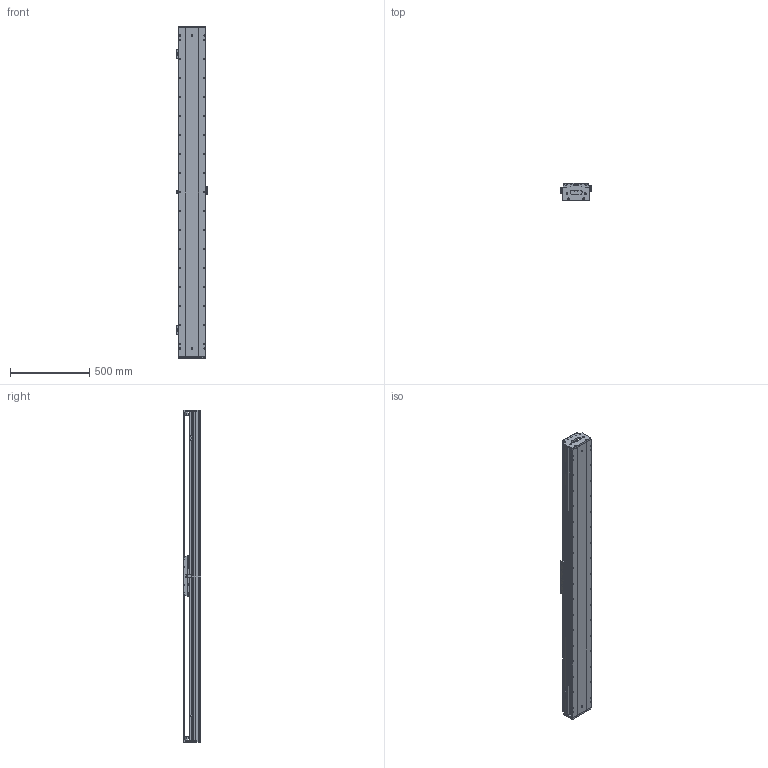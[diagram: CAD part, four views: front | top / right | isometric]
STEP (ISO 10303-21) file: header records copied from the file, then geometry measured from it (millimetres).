
FILE_DESCRIPTION (( 'STEP AP203' ), '1' );
FILE_NAME ('DKW168-C3-W090（T1740-L005-0.2）.STEP', '2021-09-10T01:37:29', ( '微软用户' ), ( '微软中国' ), 'SwSTEP 2.0', 'SolidWorks 2018', '' );
FILE_SCHEMA (( 'CONFIG_CONTROL_DESIGN' ));
Length unit declared in the file: millimetre
Products named in the file (27): DKW168-HXJ-00 遣喳砎蝶; RUS嫖掑郪璃; DKW168-C3-W090-HTB-04 C3-W090賑怢啣; 10392-0001-002-00 詩湍裔啣; pm-y65; MSB20S1FC; 砎蝶猾沭; 10980-0001-003-00 嫖萇羲壽嘐隅釱; CKM03-W090-C1C2-TP-0.2 珨极萇儂; DKW168 单轴模组-拉钢带组件; 10392-0001-003-00 詩湍嶺輸; 嫖萇羲壽蚾饜极; DKW168-HYB-00 賑輸揤啣; CKM01-W090-TRL280; 10392-0001-004-00 詩湍揤輸; DKW-SG-GYP-H-00 嫖萇覜茼え; C3-W090; DKW168-RU-DTJ-00 RU2黍杅芛盓殤; 10279-0001-006-00 嶺輸菜輸; 嫖萇羲壽蚾饜极A; 10392-0001-001-00 菁釱; RUS嫖掑喜; DKW168-C3-W090（T1740-L005-0.2）; MSA20絳寢; Ru2; 10279-0001-003-00 傷啣; 錨弇
Assembly tree (42 placements, depth 3):
  DKW168-C3-W090（T1740-L005-0.2）
    C3-W090
      DKW168-C3-W090-HTB-04 C3-W090賑怢啣
      MSB20S1FC  x4
      CKM03-W090-C1C2-TP-0.2 珨极萇儂
      DKW168-HYB-00 賑輸揤啣  x2
    10392-0001-001-00 菁釱
    MSA20絳寢  x2
    DKW168 单轴模组-拉钢带组件
      10279-0001-003-00 傷啣  x2
      DKW168-HXJ-00 遣喳砎蝶  x4
      10392-0001-002-00 詩湍裔啣
      砎蝶猾沭  x2
      10392-0001-003-00 詩湍嶺輸  x2
      10392-0001-004-00 詩湍揤輸  x2
      10279-0001-006-00 嶺輸菜輸  x2
    CKM01-W090-TRL280
    DKW168-RU-DTJ-00 RU2黍杅芛盓殤
    RUS嫖掑郪璃
      RUS嫖掑喜
      Ru2
      錨弇
    嫖萇羲壽蚾饜极
      pm-y65
      10980-0001-003-00 嫖萇羲壽嘐隅釱
    DKW-SG-GYP-H-00 嫖萇覜茼え
    嫖萇羲壽蚾饜极A
      pm-y65  x2
      10980-0001-003-00 嫖萇羲壽嘐隅釱
Bounding box: 202.1 x 109 x 2100 mm (x, y, z)
Volume: 14025288.3 mm3; surface area: 4082914.9 mm2
Topology: 49 solids, 98 shells, 4858 faces, 12697 edges, 8086 vertices
Faces by surface type: plane 2439, cylinder 1598, cone 510, bspline 279, torus 16, sphere 16
Entity records: 121924 total; most frequent: CARTESIAN_POINT 40991, ORIENTED_EDGE 16213, DIRECTION 15498, EDGE_CURVE 8147, VERTEX_POINT 5305, AXIS2_PLACEMENT_3D 5265, LINE 4968, VECTOR 4968
